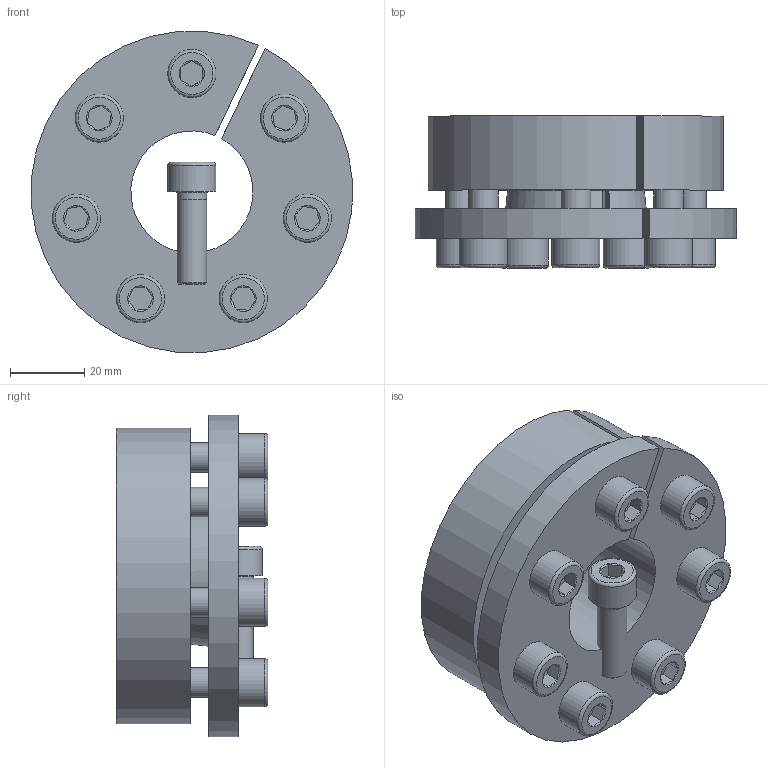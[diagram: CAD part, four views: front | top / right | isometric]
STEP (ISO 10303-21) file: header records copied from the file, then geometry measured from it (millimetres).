
FILE_DESCRIPTION( ( 'Unknown' ), '1' );
FILE_NAME( 'C:/Dokumente und Einstellungen/Sven/Desktop/15/KBS 15 - 33 x 80.stp', 'Unknown', ( 'Unknown' ), ( 'Unknown' ), 'XStep 1.0', 'Unknown', ' ' );
FILE_SCHEMA( ( 'automotive_design' ) );
Length unit declared in the file: millimetre
Products named in the file (3): Assem1; ISO EN DIN 4762 M8x25_17; KBS 15 - 33 x 80_0
Bounding box: 86.78 x 41 x 86.75 mm (x, y, z)
Volume: 248527.1 mm3; surface area: 77370.9 mm2
Topology: 10 solids, 10 shells, 252 faces, 524 edges, 324 vertices
Faces by surface type: plane 110, cylinder 66, cone 60, torus 16
Full cylindrical faces by diameter (mm): 6.647 x14, 7 x8, 8 x16, 9 x14, 13 x8
Entity records: 1694 total; most frequent: CARTESIAN_POINT 272, DIRECTION 260, ORIENTED_EDGE 186, AXIS2_PLACEMENT_3D 115, EDGE_LOOP 104, EDGE_CURVE 93, FACE_OUTER_BOUND 71, VERTEX_POINT 71
